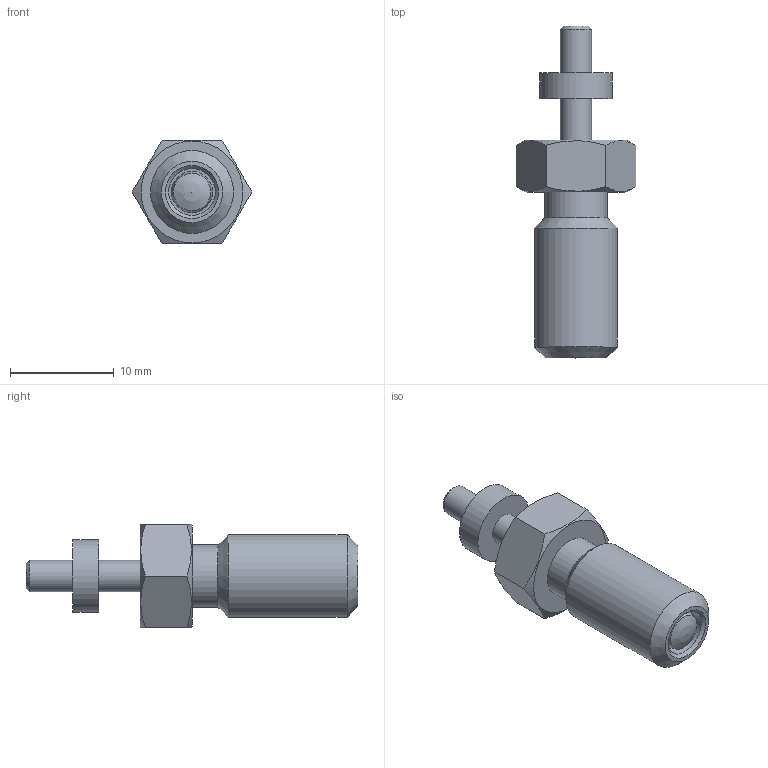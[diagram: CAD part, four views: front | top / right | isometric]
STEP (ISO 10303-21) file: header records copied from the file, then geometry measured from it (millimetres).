
FILE_DESCRIPTION( ( 'STEP AP203' ), '1' );
FILE_NAME( 'C:/Temp/Ganter_Step_05_03_2020/data/3_1/gn817/gn817_ni-rastbolzen/Stainless steel-Indexing plunger GN 817-4-4-G-NI (activated).stp', '2020-03-12T08:59:43', ( 'License CC BY-ND 4.0' ), ( 'CADENAS' ), ' ', 'PARTsolutions', ' ' );
FILE_SCHEMA( ( 'CONFIG_CONTROL_DESIGN' ) );
Length unit declared in the file: millimetre
Products named in the file (4): Stainless steel-Indexing plunger GN 817-4-4-G-NI (activated); _Stainless steel-Indexing plunger GN 817-4-4-G-NI (activated)-d2; _Stainless steel-Indexing plunger GN 817-4-4-B-NI-2; _Stainless Steel-Indexing plunger GN 817-4-4-G-NI-6
Assembly tree (3 placements, depth 2):
  Stainless steel-Indexing plunger GN 817-4-4-G-NI (activated)
    _Stainless steel-Indexing plunger GN 817-4-4-G-NI (activated)-d2
    _Stainless steel-Indexing plunger GN 817-4-4-B-NI-2
    _Stainless Steel-Indexing plunger GN 817-4-4-G-NI-6
Bounding box: 11.55 x 32 x 10 mm (x, y, z)
Volume: 1289.4 mm3; surface area: 1483.9 mm2
Topology: 2 solids, 2 shells, 35 faces, 67 edges, 42 vertices
Faces by surface type: plane 15, cylinder 9, cone 8, torus 2, sphere 1
Full cylindrical faces by diameter (mm): 3 x3, 4 x1, 4.5 x2, 6 x1, 7 x1, 8 x1
Entity records: 995 total; most frequent: CARTESIAN_POINT 233, DIRECTION 138, ORIENTED_EDGE 90, AXIS2_PLACEMENT_3D 66, EDGE_LOOP 62, FACE_OUTER_BOUND 46, EDGE_CURVE 45, VERTEX_POINT 40
